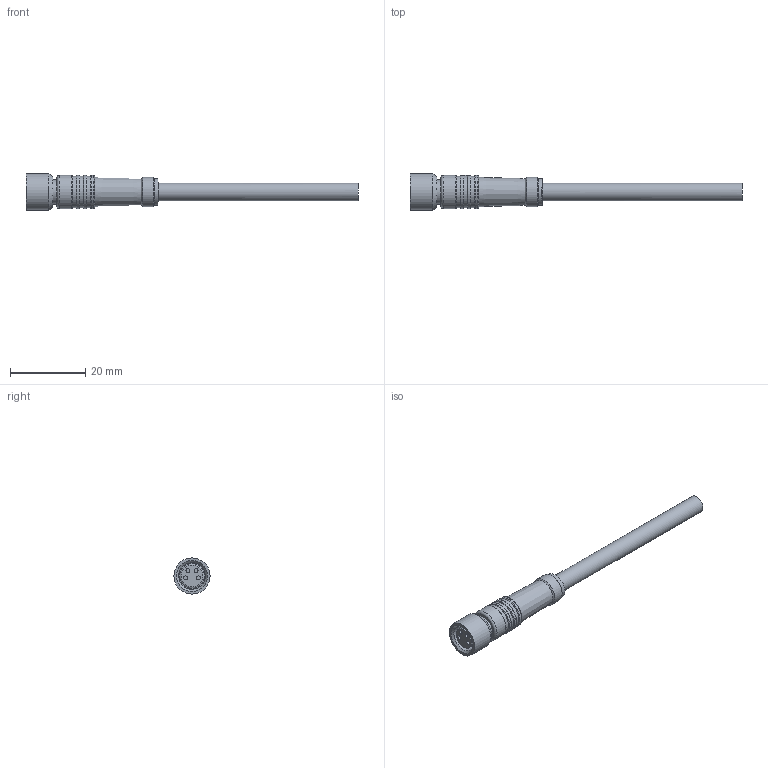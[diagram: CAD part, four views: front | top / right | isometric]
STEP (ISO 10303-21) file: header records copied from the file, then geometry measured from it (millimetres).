
FILE_DESCRIPTION( ( 'Unknown' ), '1' );
FILE_NAME( 'C:/caxtemp/000-722-A02_0_1_000178050DNR_M8_Kupplung_gerade.stp', 'Unknown', ( 'Unknown' ), ( 'Unknown' ), 'PSStep 15.0.49', 'Unknown', ' ' );
FILE_SCHEMA( ( 'AUTOMOTIVE_DESIGN { 1 0 10303 214 1 1 1 1 }' ) );
Length unit declared in the file: millimetre
Products named in the file (1): 000-722-C05_4_1_000135021DNR
Bounding box: 88.2 x 9.59 x 9.59 mm (x, y, z)
Volume: 2668.2 mm3; surface area: 2170.4 mm2
Topology: 1 solids, 1 shells, 105 faces, 239 edges, 154 vertices
Faces by surface type: plane 42, cylinder 31, torus 21, cone 7, extrusion 4
Full cylindrical faces by diameter (mm): 1.05 x4, 4.7 x1, 5.7 x1, 6.4 x1, 7.05 x1, 7.1 x3, 7.2 x1, 7.8 x1, 8.2 x1, 8.3 x2, 8.8 x2, 9.6 x1
Entity records: 4158 total; most frequent: CARTESIAN_POINT 1051, DIRECTION 477, ORIENTED_EDGE 408, EDGE_CURVE 204, AXIS2_PLACEMENT_3D 198, EDGE_LOOP 154, VERTEX_POINT 151, FACE_OUTER_BOUND 129
